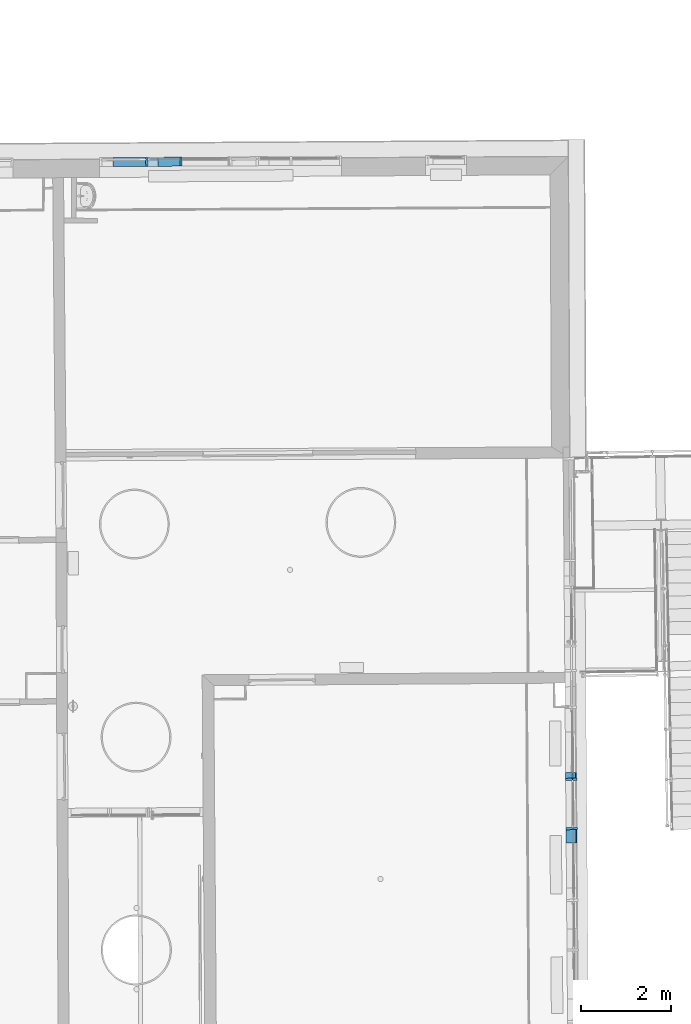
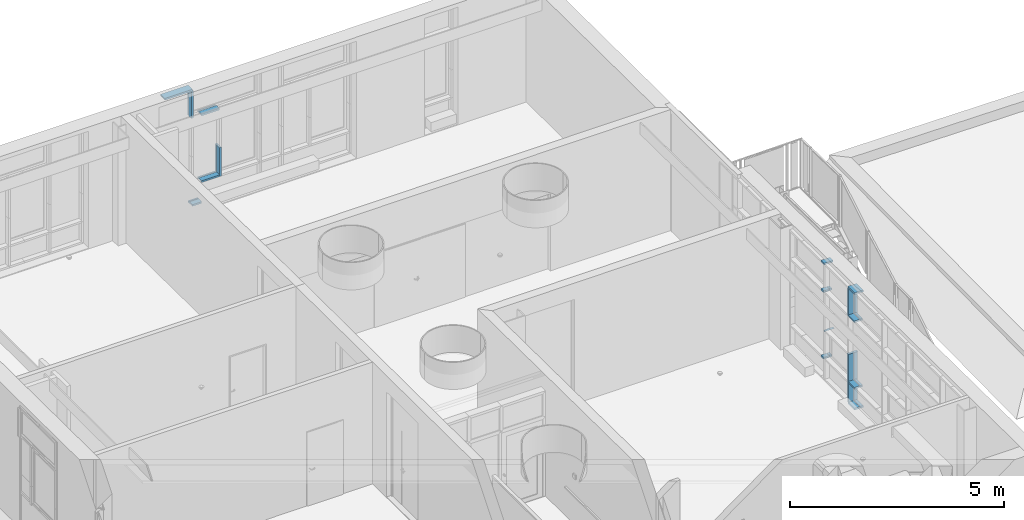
# One storey, part 129 of 158: 18 building element parts, 2 elements without a shape of their own.
"""IFC2X3 building model written with IfcOpenShell, lengths in metres."""

from ifc_helpers import new_model, entity, si_unit, converted_unit, derived_unit, money_unit, direction, frame, origin_with_axes, place, context, subcontext, project, spatial, faceted_brep, material, type_object, element, aggregate, save


model = new_model("IFC2X3")

# Units and contexts
model_context = context("Model", 3, precision=1e-05, world=origin_with_axes(), true_north=direction((0.0, 1.0)))
body_context = subcontext(model_context, "Body", "Model", "MODEL_VIEW")
ifc_project = project(units=[si_unit("LENGTHUNIT", "METRE"), si_unit("AREAUNIT", "SQUARE_METRE"), si_unit("VOLUMEUNIT", "CUBIC_METRE"), converted_unit("PLANEANGLEUNIT", "DEGREE", entity("IfcPlaneAngleMeasure", 0.0174532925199), si_unit("PLANEANGLEUNIT", "RADIAN"), dimensions=[0, 0, 0, 0, 0, 0, 0]), money_unit("EUR"), converted_unit("TIMEUNIT", "Year", entity("IfcTimeMeasure", 31556926.0), si_unit("TIMEUNIT", "SECOND"), dimensions=[0, 0, 1, 0, 0, 0, 0]), si_unit("MASSUNIT", "GRAM", prefix="KILO"), si_unit("THERMODYNAMICTEMPERATUREUNIT", "DEGREE_CELSIUS"), si_unit("LUMINOUSINTENSITYUNIT", "LUMEN"), si_unit("ENERGYUNIT", "JOULE", prefix="MEGA"), derived_unit("THERMALCONDUCTANCEUNIT", [(si_unit("POWERUNIT", "WATT"), 1), (si_unit("LENGTHUNIT", "METRE"), -1), (si_unit("THERMODYNAMICTEMPERATUREUNIT", "KELVIN"), -1)]), derived_unit("SPECIFICHEATCAPACITYUNIT", [(si_unit("ENERGYUNIT", "JOULE"), 1), (si_unit("MASSUNIT", "GRAM", prefix="KILO"), -1), (si_unit("THERMODYNAMICTEMPERATUREUNIT", "KELVIN"), -1)]), derived_unit("MASSDENSITYUNIT", [(si_unit("MASSUNIT", "GRAM", prefix="KILO"), 1), (si_unit("VOLUMEUNIT", "CUBIC_METRE"), -1)])], contexts=[model_context])

# Site, building, storey
site_placement = place(None, origin_with_axes())
site = spatial("IfcSite", under=ifc_project, at=site_placement, Name="Gelände", CompositionType="ELEMENT")
building_placement = place(site_placement, origin_with_axes())
building = spatial("IfcBuilding", under=site, at=building_placement, Name="Gebäude", CompositionType="ELEMENT")
storey_placement = place(building_placement, origin_with_axes())
storey = spatial("IfcBuildingStorey", under=building, at=storey_placement, Name="ERDGESCHOSS", CompositionType="ELEMENT", Elevation=0.0)

# Proxy, building element parts
building_element_proxy_type = type_object("IfcBuildingElementProxyType", Name="Fassadentyp", PredefinedType="NOTDEFINED")
proxy_1_placement = place(storey_placement, frame((-22.8016333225, 53.9701805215, 1.34043904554), z_axis=(0.0, 0.0, 1.0), x_axis=(1.0, 0.0, 0.0)))
proxy_1 = element("IfcBuildingElementProxy", 1, at=proxy_1_placement, inside=storey, type_object=building_element_proxy_type, Name="Fassade-002")
ifc_material = material(Name="53_Metall, Aluminium")
building_element_part_1_placement = place(proxy_1_placement, origin_with_axes())
building_element_part_1 = element("IfcBuildingElementPart", 2, at=building_element_part_1_placement, material=ifc_material, Name="53_Metall, Aluminium", context=body_context, shape_type="Brep", body=[
    faceted_brep([(-1.89498624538, -0.0210511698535, 2.51000001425), (-1.89498624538, -0.0210511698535, 2.49500001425), (-1.89416982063, -0.1610487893, 2.49500001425), (-1.89416982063, -0.1610487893, 2.54500001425), (-1.89498624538, -0.0210511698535, 2.54500001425), (-1.89498624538, -0.0210511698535, 2.53000001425), (-1.89510287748, -0.00105150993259, 2.53000001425), (-1.89510287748, -0.00105150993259, 2.54500001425), (-1.8953361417, 0.0389478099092, 2.54500001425), (-1.8953361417, 0.0389478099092, 2.49500001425), (-1.89510287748, -0.00105150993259, 2.49500001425), (-1.89510287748, -0.00105150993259, 2.51000001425), (-1.41495603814, -0.0182517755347, 2.51000001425), (-1.41495603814, -0.0182517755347, 2.49500001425), (-1.41413961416, -0.158249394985, 2.49500001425), (-1.41413961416, -0.158249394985, 2.54500001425), (-1.41495603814, -0.0182517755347, 2.54500001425), (-1.41495603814, -0.0182517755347, 2.53000001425), (-1.41507267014, 0.00174788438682, 2.53000001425), (-1.41507267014, 0.00174788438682, 2.54500001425), (-1.41530593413, 0.0417472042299, 2.54500001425), (-1.41530593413, 0.0417472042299, 2.49500001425), (-1.41507267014, 0.00174788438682, 2.49500001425), (-1.41507267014, 0.00174788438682, 2.51000001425)], [[[0, 1, 2, 3, 4, 5, 6, 7, 8, 9, 10, 11]], [[1, 0, 12, 13]], [[1, 13, 14, 2]], [[2, 14, 15, 3]], [[4, 3, 15, 16]], [[4, 16, 17, 5]], [[5, 17, 18, 6]], [[7, 6, 18, 19]], [[19, 20, 8, 7]], [[8, 20, 21, 9]], [[22, 10, 9, 21]], [[11, 10, 22, 23]], [[0, 11, 23, 12]], [[23, 22, 21, 20, 19, 18, 17, 16, 15, 14, 13, 12]]]),
])
building_element_part_2_placement = place(proxy_1_placement, origin_with_axes())
building_element_part_2 = element("IfcBuildingElementPart", 3, at=building_element_part_2_placement, material=ifc_material, Name="53_Metall, Aluminium", context=body_context, shape_type="Brep", body=[
    faceted_brep([(-1.89498625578, -0.0210511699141, 0.610000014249), (-1.89498625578, -0.0210511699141, 0.595000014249), (-1.89416983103, -0.16104878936, 0.595000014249), (-1.89416983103, -0.16104878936, 0.645000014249), (-1.89498625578, -0.0210511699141, 0.645000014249), (-1.89498625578, -0.0210511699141, 0.630000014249), (-1.89510288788, -0.00105150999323, 0.630000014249), (-1.89510288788, -0.00105150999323, 0.645000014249), (-1.8953361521, 0.0389478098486, 0.645000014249), (-1.8953361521, 0.0389478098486, 0.595000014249), (-1.89510288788, -0.00105150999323, 0.595000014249), (-1.89510288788, -0.00105150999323, 0.610000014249), (-1.41495604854, -0.0182517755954, 0.610000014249), (-1.41495604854, -0.0182517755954, 0.595000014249), (-1.41413962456, -0.158249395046, 0.595000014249), (-1.41413962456, -0.158249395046, 0.645000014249), (-1.41495604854, -0.0182517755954, 0.645000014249), (-1.41495604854, -0.0182517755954, 0.630000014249), (-1.41507268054, 0.00174788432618, 0.630000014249), (-1.41507268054, 0.00174788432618, 0.645000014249), (-1.41530594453, 0.0417472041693, 0.645000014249), (-1.41530594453, 0.0417472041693, 0.595000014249), (-1.41507268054, 0.00174788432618, 0.595000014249), (-1.41507268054, 0.00174788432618, 0.610000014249)], [[[0, 1, 2, 3, 4, 5, 6, 7, 8, 9, 10, 11]], [[1, 0, 12, 13]], [[1, 13, 14, 2]], [[2, 14, 15, 3]], [[4, 3, 15, 16]], [[4, 16, 17, 5]], [[5, 17, 18, 6]], [[7, 6, 18, 19]], [[19, 20, 8, 7]], [[8, 20, 21, 9]], [[22, 10, 9, 21]], [[11, 10, 22, 23]], [[0, 11, 23, 12]], [[23, 22, 21, 20, 19, 18, 17, 16, 15, 14, 13, 12]]]),
])
building_element_part_3_placement = place(proxy_1_placement, origin_with_axes())
building_element_part_3 = element("IfcBuildingElementPart", 4, at=building_element_part_3_placement, material=ifc_material, Name="53_Metall, Aluminium", context=body_context, shape_type="Brep", body=[
    faceted_brep([(-1.39995630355, -0.018164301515, 1.42000001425), (-1.41495604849, -0.018251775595, 1.42000001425), (-1.41413962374, -0.158249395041, 1.42000001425), (-1.36414047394, -0.157957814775, 1.42000001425), (-1.36495689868, -0.0179601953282, 1.42000001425), (-1.37995664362, -0.0180476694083, 1.42000001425), (-1.38007327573, 0.00195199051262, 1.42000001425), (-1.36507353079, 0.00203946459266, 1.42000001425), (-1.365306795, 0.0420387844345, 1.42000001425), (-1.41530594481, 0.0417472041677, 1.42000001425), (-1.41507268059, 0.00174788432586, 1.42000001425), (-1.40007293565, 0.0018353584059, 1.42000001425), (-1.39995630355, -0.018164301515, 0.595000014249), (-1.41495604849, -0.018251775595, 0.595000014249), (-1.41413962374, -0.158249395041, 0.595000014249), (-1.36414047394, -0.157957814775, 0.595000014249), (-1.36495689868, -0.0179601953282, 0.595000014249), (-1.37995664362, -0.0180476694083, 0.595000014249), (-1.38007327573, 0.00195199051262, 0.595000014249), (-1.36507353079, 0.00203946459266, 0.595000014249), (-1.365306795, 0.0420387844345, 0.595000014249), (-1.41530594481, 0.0417472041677, 0.595000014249), (-1.41507268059, 0.00174788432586, 0.595000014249), (-1.40007293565, 0.0018353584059, 0.595000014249)], [[[0, 1, 2, 3, 4, 5, 6, 7, 8, 9, 10, 11]], [[1, 0, 12, 13]], [[1, 13, 14, 2]], [[3, 2, 14, 15]], [[4, 3, 15, 16]], [[4, 16, 17, 5]], [[5, 17, 18, 6]], [[7, 6, 18, 19]], [[19, 20, 8, 7]], [[9, 8, 20, 21]], [[22, 10, 9, 21]], [[11, 10, 22, 23]], [[0, 11, 23, 12]], [[23, 22, 21, 20, 19, 18, 17, 16, 15, 14, 13, 12]]]),
])
building_element_part_4_placement = place(proxy_1_placement, origin_with_axes())
building_element_part_4 = element("IfcBuildingElementPart", 5, at=building_element_part_4_placement, material=ifc_material, Name="53_Metall, Aluminium", context=body_context, shape_type="Brep", body=[
    faceted_brep([(-2.89496924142, -0.0268827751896, 3.31499988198), (-2.89496924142, -0.0268827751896, 3.29999988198), (-2.89415281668, -0.166880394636, 3.29999988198), (-2.89415281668, -0.166880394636, 3.34999988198), (-2.89531913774, 0.0331162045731, 3.34999988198), (-2.89531913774, 0.0331162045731, 3.29999988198), (-2.89508587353, -0.00688311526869, 3.29999988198), (-2.89508587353, -0.00688311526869, 3.31499988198), (-2.14533506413, -0.0225111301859, 3.31499988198), (-2.14533506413, -0.0225111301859, 3.29999988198), (-2.14451863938, -0.162508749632, 3.29999988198), (-2.14451863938, -0.162508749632, 3.34999988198), (-2.14568496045, 0.0374878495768, 3.34999988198), (-2.14568496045, 0.0374878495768, 3.29999988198), (-2.14545169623, -0.00251147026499, 3.29999988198), (-2.14545169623, -0.00251147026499, 3.31499988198)], [[[0, 1, 2, 3, 4, 5, 6, 7]], [[0, 8, 9, 1]], [[9, 10, 2, 1]], [[10, 11, 3, 2]], [[11, 12, 4, 3]], [[12, 13, 5, 4]], [[6, 5, 13, 14]], [[14, 15, 7, 6]], [[7, 15, 8, 0]], [[8, 15, 14, 13, 12, 11, 10, 9]]]),
])
building_element_part_5_placement = place(proxy_1_placement, origin_with_axes())
building_element_part_5 = element("IfcBuildingElementPart", 6, at=building_element_part_5_placement, material=ifc_material, Name="53_Metall, Aluminium", context=body_context, shape_type="Brep", body=[
    faceted_brep([(-2.15533489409, -0.0225694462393, 3.29999992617), (-2.17033463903, -0.0226569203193, 3.29999992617), (-2.16951821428, -0.162654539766, 3.29999992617), (-2.11951906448, -0.162362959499, 3.29999992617), (-2.12033548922, -0.0223653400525, 3.29999992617), (-2.13533523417, -0.0224528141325, 3.29999992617), (-2.13545186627, -0.00245315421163, 3.29999992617), (-2.12045212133, -0.00236568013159, 3.29999992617), (-2.12068538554, 0.0376336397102, 3.29999992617), (-2.17068453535, 0.0373420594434, 3.29999992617), (-2.17045127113, -0.00265726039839, 3.29999992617), (-2.15545152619, -0.00256978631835, 3.29999992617), (-2.15533489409, -0.0225694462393, 2.5200000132), (-2.17033463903, -0.0226569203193, 2.5200000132), (-2.16951821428, -0.162654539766, 2.5200000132), (-2.11951906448, -0.162362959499, 2.5200000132), (-2.12033548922, -0.0223653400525, 2.5200000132), (-2.13533523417, -0.0224528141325, 2.5200000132), (-2.13545186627, -0.00245315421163, 2.5200000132), (-2.12045212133, -0.00236568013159, 2.5200000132), (-2.12068538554, 0.0376336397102, 2.5200000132), (-2.17068453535, 0.0373420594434, 2.5200000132), (-2.17045127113, -0.00265726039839, 2.5200000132), (-2.15545152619, -0.00256978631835, 2.5200000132)], [[[0, 1, 2, 3, 4, 5, 6, 7, 8, 9, 10, 11]], [[1, 0, 12, 13]], [[1, 13, 14, 2]], [[3, 2, 14, 15]], [[4, 3, 15, 16]], [[4, 16, 17, 5]], [[5, 17, 18, 6]], [[7, 6, 18, 19]], [[19, 20, 8, 7]], [[9, 8, 20, 21]], [[22, 10, 9, 21]], [[11, 10, 22, 23]], [[0, 11, 23, 12]], [[23, 22, 21, 20, 19, 18, 17, 16, 15, 14, 13, 12]]]),
])
building_element_part_6_placement = place(proxy_1_placement, origin_with_axes())
building_element_part_6 = element("IfcBuildingElementPart", 7, at=building_element_part_6_placement, material=ifc_material, Name="53_Metall, Aluminium", context=body_context, shape_type="Brep", body=[
    faceted_brep([(-2.14533506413, -0.0225111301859, 0.0349999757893), (-2.14545169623, -0.00251147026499, 0.0349999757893), (-2.14545169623, -0.00251147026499, 0.0499999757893), (-2.14568496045, 0.0374878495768, 0.0499999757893), (-2.14568496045, 0.0374878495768, -2.42107287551e-08), (-2.14451863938, -0.162508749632, -2.42107287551e-08), (-2.14451863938, -0.162508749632, 0.0499999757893), (-2.14533506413, -0.0225111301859, 0.0499999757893), (-1.89498624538, -0.0210511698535, 0.0349999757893), (-1.89510287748, -0.00105150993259, 0.0349999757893), (-1.89510287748, -0.00105150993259, 0.0499999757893), (-1.8953361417, 0.0389478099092, 0.0499999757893), (-1.8953361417, 0.0389478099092, -2.42107287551e-08), (-1.89416982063, -0.1610487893, -2.42107287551e-08), (-1.89416982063, -0.1610487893, 0.0499999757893), (-1.89498624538, -0.0210511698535, 0.0499999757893)], [[[0, 1, 2, 3, 4, 5, 6, 7]], [[1, 0, 8, 9]], [[10, 2, 1, 9]], [[2, 10, 11, 3]], [[12, 4, 3, 11]], [[13, 5, 4, 12]], [[14, 6, 5, 13]], [[15, 7, 6, 14]], [[0, 7, 15, 8]], [[8, 15, 14, 13, 12, 11, 10, 9]]]),
])
aggregate(proxy_1, [building_element_part_1, building_element_part_2, building_element_part_3, building_element_part_4, building_element_part_5, building_element_part_6])

proxy_2_placement = place(storey_placement, frame((-15.5457352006, 40.9565245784, 1.34043905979), z_axis=(0.0, 0.0, 1.0), x_axis=(1.0, 0.0, 0.0)))
proxy_2 = element("IfcBuildingElementProxy", 8, at=proxy_2_placement, inside=storey, type_object=building_element_proxy_type, Name="Fassade-002")
building_element_part_7_placement = place(proxy_2_placement, origin_with_axes())
building_element_part_7 = element("IfcBuildingElementPart", 9, at=building_element_part_7_placement, material=ifc_material, Name="53_Metall, Aluminium", context=body_context, shape_type="Brep", body=[
    faceted_brep([(0.00633996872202, -2.10000461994, 0.60999994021), (0.0263393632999, -2.09984900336, 0.60999994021), (0.0263393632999, -2.09984900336, 0.59499994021), (0.0863375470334, -2.09938215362, 0.59499994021), (0.0863375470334, -2.09938215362, 0.64499994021), (0.0263393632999, -2.09984900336, 0.64499994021), (0.0263393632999, -2.09984900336, 0.62999994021), (0.00633996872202, -2.10000461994, 0.62999994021), (0.00633996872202, -2.10000461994, 0.64499994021), (-0.133655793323, -2.101093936, 0.64499994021), (-0.133655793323, -2.101093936, 0.59499994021), (0.00633996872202, -2.10000461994, 0.59499994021), (0.00409091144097, -1.81096225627, 0.60999994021), (0.0240903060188, -1.81080663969, 0.60999994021), (0.0240903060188, -1.81080663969, 0.59499994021), (0.0840884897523, -1.81033978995, 0.59499994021), (0.0840884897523, -1.81033978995, 0.64499994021), (0.0240903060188, -1.81080663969, 0.64499994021), (0.0240903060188, -1.81080663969, 0.62999994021), (0.00409091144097, -1.81096225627, 0.62999994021), (0.00409091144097, -1.81096225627, 0.64499994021), (-0.135904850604, -1.81205157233, 0.64499994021), (-0.135904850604, -1.81205157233, 0.59499994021), (0.00409091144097, -1.81096225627, 0.59499994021)], [[[0, 1, 2, 3, 4, 5, 6, 7, 8, 9, 10, 11]], [[0, 12, 13, 1]], [[1, 13, 14, 2]], [[14, 15, 3, 2]], [[4, 3, 15, 16]], [[17, 5, 4, 16]], [[5, 17, 18, 6]], [[7, 6, 18, 19]], [[8, 7, 19, 20]], [[8, 20, 21, 9]], [[10, 9, 21, 22]], [[11, 10, 22, 23]], [[11, 23, 12, 0]], [[13, 12, 23, 22, 21, 20, 19, 18, 17, 16, 15, 14]]]),
])
building_element_part_8_placement = place(proxy_2_placement, origin_with_axes())
building_element_part_8 = element("IfcBuildingElementPart", 10, at=building_element_part_8_placement, material=ifc_material, Name="53_Metall, Aluminium", context=body_context, shape_type="Brep", body=[
    faceted_brep([(0.00633996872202, -2.10000461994, 0.035), (0.00633996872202, -2.10000461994, 0.05), (-0.133655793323, -2.101093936, 0.05), (-0.133655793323, -2.101093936, 0.0), (0.106336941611, -2.09922653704, 0.0), (0.106336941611, -2.09922653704, 0.05), (0.0263393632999, -2.09984900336, 0.05), (0.0263393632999, -2.09984900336, 0.035), (0.00389639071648, -1.78596301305, 0.035), (0.00389639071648, -1.78596301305, 0.05), (-0.136099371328, -1.7870523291, 0.05), (-0.136099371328, -1.7870523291, 0.0), (0.103893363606, -1.78518493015, 0.0), (0.103893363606, -1.78518493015, 0.05), (0.0238957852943, -1.78580739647, 0.05), (0.0238957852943, -1.78580739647, 0.035)], [[[0, 1, 2, 3, 4, 5, 6, 7]], [[0, 8, 9, 1]], [[9, 10, 2, 1]], [[10, 11, 3, 2]], [[11, 12, 4, 3]], [[12, 13, 5, 4]], [[6, 5, 13, 14]], [[14, 15, 7, 6]], [[7, 15, 8, 0]], [[8, 15, 14, 13, 12, 11, 10, 9]]]),
])
building_element_part_9_placement = place(proxy_2_placement, origin_with_axes())
building_element_part_9 = element("IfcBuildingElementPart", 11, at=building_element_part_9_placement, material=ifc_material, Name="53_Metall, Aluminium", context=body_context, shape_type="Brep", body=[
    faceted_brep([(-0.00476907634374, -0.672302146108, 2.50999994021), (0.0152303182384, -0.672146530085, 2.50999994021), (0.0152303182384, -0.672146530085, 2.49499994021), (0.0752285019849, -0.671679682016, 2.49499994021), (0.0752285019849, -0.671679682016, 2.54499994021), (0.0152303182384, -0.672146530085, 2.54499994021), (0.0152303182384, -0.672146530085, 2.52999994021), (-0.00476907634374, -0.672302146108, 2.52999994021), (-0.00476907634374, -0.672302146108, 2.54499994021), (-0.144764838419, -0.67339145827, 2.54499994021), (-0.144764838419, -0.67339145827, 2.49499994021), (-0.00476907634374, -0.672302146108, 2.49499994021), (-0.00572031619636, -0.55005154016, 2.50999994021), (0.0142790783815, -0.54989592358, 2.50999994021), (0.0142790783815, -0.54989592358, 2.49499994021), (0.074277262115, -0.549429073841, 2.49499994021), (0.074277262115, -0.549429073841, 2.54499994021), (0.0142790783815, -0.54989592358, 2.54499994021), (0.0142790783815, -0.54989592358, 2.52999994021), (-0.00572031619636, -0.55005154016, 2.52999994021), (-0.00572031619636, -0.55005154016, 2.54499994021), (-0.145716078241, -0.551140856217, 2.54499994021), (-0.145716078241, -0.551140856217, 2.49499994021), (-0.00572031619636, -0.55005154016, 2.49499994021)], [[[0, 1, 2, 3, 4, 5, 6, 7, 8, 9, 10, 11]], [[0, 12, 13, 1]], [[1, 13, 14, 2]], [[14, 15, 3, 2]], [[3, 15, 16, 4]], [[17, 5, 4, 16]], [[5, 17, 18, 6]], [[7, 6, 18, 19]], [[8, 7, 19, 20]], [[8, 20, 21, 9]], [[9, 21, 22, 10]], [[11, 10, 22, 23]], [[11, 23, 12, 0]], [[13, 12, 23, 22, 21, 20, 19, 18, 17, 16, 15, 14]]]),
])
building_element_part_10_placement = place(proxy_2_placement, origin_with_axes())
building_element_part_10 = element("IfcBuildingElementPart", 12, at=building_element_part_10_placement, material=ifc_material, Name="53_Metall, Aluminium", context=body_context, shape_type="Brep", body=[
    faceted_brep([(0.00633996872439, -2.10000462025, 2.50999994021), (0.0263393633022, -2.09984900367, 2.50999994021), (0.0263393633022, -2.09984900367, 2.49499994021), (0.0863375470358, -2.09938215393, 2.49499994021), (0.0863375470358, -2.09938215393, 2.54499994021), (0.0263393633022, -2.09984900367, 2.54499994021), (0.0263393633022, -2.09984900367, 2.52999994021), (0.00633996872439, -2.10000462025, 2.52999994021), (0.00633996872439, -2.10000462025, 2.54499994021), (-0.13365579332, -2.1010939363, 2.54499994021), (-0.13365579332, -2.1010939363, 2.49499994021), (0.00633996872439, -2.10000462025, 2.49499994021), (0.00409091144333, -1.81096225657, 2.50999994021), (0.0240903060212, -1.81080663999, 2.50999994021), (0.0240903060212, -1.81080663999, 2.49499994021), (0.0840884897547, -1.81033979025, 2.49499994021), (0.0840884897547, -1.81033979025, 2.54499994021), (0.0240903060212, -1.81080663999, 2.54499994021), (0.0240903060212, -1.81080663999, 2.52999994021), (0.00409091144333, -1.81096225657, 2.52999994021), (0.00409091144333, -1.81096225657, 2.54499994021), (-0.135904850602, -1.81205157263, 2.54499994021), (-0.135904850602, -1.81205157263, 2.49499994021), (0.00409091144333, -1.81096225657, 2.49499994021)], [[[0, 1, 2, 3, 4, 5, 6, 7, 8, 9, 10, 11]], [[0, 12, 13, 1]], [[1, 13, 14, 2]], [[14, 15, 3, 2]], [[4, 3, 15, 16]], [[17, 5, 4, 16]], [[5, 17, 18, 6]], [[7, 6, 18, 19]], [[8, 7, 19, 20]], [[8, 20, 21, 9]], [[10, 9, 21, 22]], [[11, 10, 22, 23]], [[11, 23, 12, 0]], [[13, 12, 23, 22, 21, 20, 19, 18, 17, 16, 15, 14]]]),
])
building_element_part_11_placement = place(proxy_2_placement, origin_with_axes())
building_element_part_11 = element("IfcBuildingElementPart", 13, at=building_element_part_11_placement, material=ifc_material, Name="53_Metall, Aluminium", context=body_context, shape_type="Brep", body=[
    faceted_brep([(-0.00449674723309, -0.707301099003, 1.42310934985), (0.0155026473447, -0.707145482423, 1.42310934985), (0.0156193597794, -0.722145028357, 1.42310934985), (0.110616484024, -0.721405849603, 1.42310934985), (0.110227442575, -0.671407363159, 1.42310934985), (0.0152303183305, -0.672146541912, 1.42310934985), (0.0153470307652, -0.687146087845, 1.42310934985), (-0.00465236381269, -0.687301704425, 1.42310934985), (-0.00476907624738, -0.672302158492, 1.42310934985), (-0.144764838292, -0.673391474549, 1.42310934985), (-0.144375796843, -0.723389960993, 1.42310934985), (-0.0043800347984, -0.722300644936, 1.42310934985), (-0.00449674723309, -0.707301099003, 1.41999993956), (0.0155026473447, -0.707145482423, 1.41999993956), (0.0156193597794, -0.722145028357, 1.41999993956), (0.110616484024, -0.721405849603, 1.41999993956), (0.110227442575, -0.671407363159, 1.41999993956), (0.0152303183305, -0.672146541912, 1.41999993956), (0.0153470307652, -0.687146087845, 1.41999993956), (-0.00465236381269, -0.687301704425, 1.41999993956), (-0.00476907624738, -0.672302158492, 1.41999993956), (-0.144764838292, -0.673391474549, 1.41999993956), (-0.144375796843, -0.723389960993, 1.41999993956), (-0.0043800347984, -0.722300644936, 1.41999993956)], [[[0, 1, 2, 3, 4, 5, 6, 7, 8, 9, 10, 11]], [[0, 12, 13, 1]], [[1, 13, 14, 2]], [[14, 15, 3, 2]], [[3, 15, 16, 4]], [[17, 5, 4, 16]], [[5, 17, 18, 6]], [[7, 6, 18, 19]], [[8, 7, 19, 20]], [[8, 20, 21, 9]], [[9, 21, 22, 10]], [[11, 10, 22, 23]], [[11, 23, 12, 0]], [[13, 12, 23, 22, 21, 20, 19, 18, 17, 16, 15, 14]]]),
])
building_element_part_12_placement = place(proxy_2_placement, origin_with_axes())
building_element_part_12 = element("IfcBuildingElementPart", 14, at=building_element_part_12_placement, material=ifc_material, Name="53_Metall, Aluminium", context=body_context, shape_type="Brep", body=[
    faceted_brep([(0.00397419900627, -1.79596271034, 1.41999994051), (0.0239735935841, -1.79580709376, 1.41999994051), (0.0240903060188, -1.81080663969, 1.41999994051), (0.119087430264, -1.81006746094, 1.41999994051), (0.118698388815, -1.76006897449, 1.41999994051), (0.0237012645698, -1.76080815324, 1.41999994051), (0.0238179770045, -1.77580769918, 1.41999994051), (0.00381858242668, -1.77596331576, 1.41999994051), (0.00370186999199, -1.76096376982, 1.41999994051), (-0.136293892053, -1.76205308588, 1.41999994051), (-0.135904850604, -1.81205157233, 1.41999994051), (0.00409091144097, -1.81096225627, 1.41999994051), (0.00397419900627, -1.79596271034, 0.619999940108), (0.0239735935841, -1.79580709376, 0.619999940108), (0.0240903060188, -1.81080663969, 0.619999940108), (0.119087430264, -1.81006746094, 0.619999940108), (0.118698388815, -1.76006897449, 0.619999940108), (0.0237012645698, -1.76080815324, 0.619999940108), (0.0238179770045, -1.77580769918, 0.619999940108), (0.00381858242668, -1.77596331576, 0.619999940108), (0.00370186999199, -1.76096376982, 0.619999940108), (-0.136293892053, -1.76205308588, 0.619999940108), (-0.135904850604, -1.81205157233, 0.619999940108), (0.00409091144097, -1.81096225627, 0.619999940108)], [[[0, 1, 2, 3, 4, 5, 6, 7, 8, 9, 10, 11]], [[0, 12, 13, 1]], [[1, 13, 14, 2]], [[14, 15, 3, 2]], [[3, 15, 16, 4]], [[17, 5, 4, 16]], [[5, 17, 18, 6]], [[7, 6, 18, 19]], [[8, 7, 19, 20]], [[8, 20, 21, 9]], [[9, 21, 22, 10]], [[11, 10, 22, 23]], [[11, 23, 12, 0]], [[13, 12, 23, 22, 21, 20, 19, 18, 17, 16, 15, 14]]]),
])
building_element_part_13_placement = place(proxy_2_placement, origin_with_axes())
building_element_part_13 = element("IfcBuildingElementPart", 15, at=building_element_part_13_placement, material=ifc_material, Name="53_Metall, Aluminium", context=body_context, shape_type="Brep", body=[
    faceted_brep([(-0.00476907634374, -0.672302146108, 0.60999994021), (0.0152303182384, -0.672146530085, 0.60999994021), (0.0152303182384, -0.672146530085, 0.59499994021), (0.0752285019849, -0.671679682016, 0.59499994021), (0.0752285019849, -0.671679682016, 0.64499994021), (0.0152303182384, -0.672146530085, 0.64499994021), (0.0152303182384, -0.672146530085, 0.62999994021), (-0.00476907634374, -0.672302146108, 0.62999994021), (-0.00476907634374, -0.672302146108, 0.64499994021), (-0.144764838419, -0.67339145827, 0.64499994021), (-0.144764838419, -0.67339145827, 0.59499994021), (-0.00476907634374, -0.672302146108, 0.59499994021), (-0.00572031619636, -0.55005154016, 0.60999994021), (0.0142790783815, -0.54989592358, 0.60999994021), (0.0142790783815, -0.54989592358, 0.59499994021), (0.074277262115, -0.549429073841, 0.59499994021), (0.074277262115, -0.549429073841, 0.64499994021), (0.0142790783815, -0.54989592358, 0.64499994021), (0.0142790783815, -0.54989592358, 0.62999994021), (-0.00572031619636, -0.55005154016, 0.62999994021), (-0.00572031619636, -0.55005154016, 0.64499994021), (-0.145716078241, -0.551140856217, 0.64499994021), (-0.145716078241, -0.551140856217, 0.59499994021), (-0.00572031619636, -0.55005154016, 0.59499994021)], [[[0, 1, 2, 3, 4, 5, 6, 7, 8, 9, 10, 11]], [[0, 12, 13, 1]], [[1, 13, 14, 2]], [[14, 15, 3, 2]], [[3, 15, 16, 4]], [[17, 5, 4, 16]], [[5, 17, 18, 6]], [[7, 6, 18, 19]], [[8, 7, 19, 20]], [[8, 20, 21, 9]], [[9, 21, 22, 10]], [[11, 10, 22, 23]], [[11, 23, 12, 0]], [[13, 12, 23, 22, 21, 20, 19, 18, 17, 16, 15, 14]]]),
])
building_element_part_14_placement = place(proxy_2_placement, origin_with_axes())
building_element_part_14 = element("IfcBuildingElementPart", 16, at=building_element_part_14_placement, material=ifc_material, Name="53_Metall, Aluminium", context=body_context, shape_type="Brep", body=[
    faceted_brep([(-0.00457455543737, -0.697301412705, 3.31499987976), (0.0154248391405, -0.697145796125, 3.31499987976), (0.0154248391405, -0.697145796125, 3.29999987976), (0.0954224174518, -0.696523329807, 3.29999987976), (0.0954224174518, -0.696523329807, 3.34999987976), (-0.144570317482, -0.698390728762, 3.34999987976), (-0.144570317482, -0.698390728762, 3.29999987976), (-0.00457455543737, -0.697301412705, 3.29999987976), (-0.00572031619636, -0.55005154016, 3.31499987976), (0.0142790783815, -0.54989592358, 3.31499987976), (0.0142790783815, -0.54989592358, 3.29999987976), (0.0942766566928, -0.549273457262, 3.29999987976), (0.0942766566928, -0.549273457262, 3.34999987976), (-0.145716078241, -0.551140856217, 3.34999987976), (-0.145716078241, -0.551140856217, 3.29999987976), (-0.00572031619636, -0.55005154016, 3.29999987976)], [[[0, 1, 2, 3, 4, 5, 6, 7]], [[1, 0, 8, 9]], [[10, 2, 1, 9]], [[2, 10, 11, 3]], [[12, 4, 3, 11]], [[13, 5, 4, 12]], [[14, 6, 5, 13]], [[15, 7, 6, 14]], [[0, 7, 15, 8]], [[8, 15, 14, 13, 12, 11, 10, 9]]]),
])
building_element_part_15_placement = place(proxy_2_placement, origin_with_axes())
building_element_part_15 = element("IfcBuildingElementPart", 17, at=building_element_part_15_placement, material=ifc_material, Name="53_Metall, Aluminium", context=body_context, shape_type="Brep", body=[
    faceted_brep([(0.00397419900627, -1.79596271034, 0.619999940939), (0.0239735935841, -1.79580709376, 0.619999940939), (0.0240903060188, -1.81080663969, 0.619999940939), (0.119087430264, -1.81006746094, 0.619999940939), (0.118698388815, -1.76006897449, 0.619999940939), (0.0237012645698, -1.76080815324, 0.619999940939), (0.0238179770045, -1.77580769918, 0.619999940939), (0.00381858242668, -1.77596331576, 0.619999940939), (0.00370186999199, -1.76096376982, 0.619999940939), (-0.136293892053, -1.76205308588, 0.619999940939), (-0.135904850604, -1.81205157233, 0.619999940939), (0.00409091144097, -1.81096225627, 0.619999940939), (0.00397419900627, -1.79596271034, 0.0500000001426), (0.0239735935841, -1.79580709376, 0.0499999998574), (0.0240903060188, -1.81080663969, 0.0499999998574), (0.119087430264, -1.81006746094, 0.0499999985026), (0.118698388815, -1.76006897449, 0.0499999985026), (0.0237012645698, -1.76080815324, 0.0499999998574), (0.0238179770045, -1.77580769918, 0.0499999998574), (0.00381858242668, -1.77596331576, 0.0500000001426), (0.00370186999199, -1.76096376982, 0.0500000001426), (-0.136293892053, -1.76205308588, 0.0500000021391), (-0.135904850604, -1.81205157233, 0.0500000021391), (0.00409091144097, -1.81096225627, 0.0500000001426)], [[[0, 1, 2, 3, 4, 5, 6, 7, 8, 9, 10, 11]], [[0, 12, 13, 1]], [[1, 13, 14, 2]], [[14, 15, 3, 2]], [[4, 3, 15, 16]], [[17, 5, 4, 16]], [[5, 17, 18, 6]], [[7, 6, 18, 19]], [[8, 7, 19, 20]], [[8, 20, 21, 9]], [[10, 9, 21, 22]], [[11, 10, 22, 23]], [[11, 23, 12, 0]], [[13, 12, 23, 22, 21, 20, 19, 18, 17, 16, 15, 14]]]),
])
building_element_part_16_placement = place(proxy_2_placement, origin_with_axes())
building_element_part_16 = element("IfcBuildingElementPart", 18, at=building_element_part_16_placement, material=ifc_material, Name="53_Metall, Aluminium", context=body_context, shape_type="Brep", body=[
    faceted_brep([(0.00397419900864, -1.79596271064, 1.42310934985), (0.0239735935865, -1.79580709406, 1.42310934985), (0.0240903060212, -1.81080663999, 1.42310934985), (0.119087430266, -1.81006746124, 1.42310934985), (0.118698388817, -1.7600689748, 1.42310934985), (0.0237012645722, -1.76080815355, 1.42310934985), (0.0238179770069, -1.77580769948, 1.42310934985), (0.00381858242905, -1.77596331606, 1.42310934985), (0.00370186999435, -1.76096377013, 1.42310934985), (-0.136293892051, -1.76205308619, 1.42310934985), (-0.135904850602, -1.81205157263, 1.42310934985), (0.00409091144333, -1.81096225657, 1.42310934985), (0.00397419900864, -1.79596271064, 1.41999993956), (0.0239735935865, -1.79580709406, 1.41999993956), (0.0240903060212, -1.81080663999, 1.41999993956), (0.119087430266, -1.81006746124, 1.41999993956), (0.118698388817, -1.7600689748, 1.41999993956), (0.0237012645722, -1.76080815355, 1.41999993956), (0.0238179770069, -1.77580769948, 1.41999993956), (0.00381858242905, -1.77596331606, 1.41999993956), (0.00370186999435, -1.76096377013, 1.41999993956), (-0.136293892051, -1.76205308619, 1.41999993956), (-0.135904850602, -1.81205157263, 1.41999993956), (0.00409091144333, -1.81096225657, 1.41999993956)], [[[0, 1, 2, 3, 4, 5, 6, 7, 8, 9, 10, 11]], [[0, 12, 13, 1]], [[1, 13, 14, 2]], [[14, 15, 3, 2]], [[3, 15, 16, 4]], [[17, 5, 4, 16]], [[5, 17, 18, 6]], [[7, 6, 18, 19]], [[8, 7, 19, 20]], [[8, 20, 21, 9]], [[9, 21, 22, 10]], [[11, 10, 22, 23]], [[11, 23, 12, 0]], [[13, 12, 23, 22, 21, 20, 19, 18, 17, 16, 15, 14]]]),
])
building_element_part_17_placement = place(proxy_2_placement, origin_with_axes())
building_element_part_17 = element("IfcBuildingElementPart", 19, at=building_element_part_17_placement, material=ifc_material, Name="53_Metall, Aluminium", context=body_context, shape_type="Brep", body=[
    faceted_brep([(0.00397419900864, -1.79596271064, 3.29999987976), (0.0239735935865, -1.79580709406, 3.29999987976), (0.0240903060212, -1.81080663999, 3.29999987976), (0.119087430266, -1.81006746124, 3.29999987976), (0.118698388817, -1.7600689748, 3.29999987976), (0.0237012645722, -1.76080815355, 3.29999987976), (0.0238179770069, -1.77580769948, 3.29999987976), (0.00381858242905, -1.77596331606, 3.29999987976), (0.00370186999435, -1.76096377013, 3.29999987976), (-0.136293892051, -1.76205308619, 3.29999987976), (-0.135904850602, -1.81205157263, 3.29999987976), (0.00409091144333, -1.81096225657, 3.29999987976), (0.00397419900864, -1.79596271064, 2.5199999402), (0.0239735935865, -1.79580709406, 2.5199999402), (0.0240903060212, -1.81080663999, 2.5199999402), (0.119087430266, -1.81006746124, 2.5199999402), (0.118698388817, -1.7600689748, 2.5199999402), (0.0237012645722, -1.76080815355, 2.5199999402), (0.0238179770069, -1.77580769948, 2.5199999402), (0.00381858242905, -1.77596331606, 2.5199999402), (0.00370186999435, -1.76096377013, 2.5199999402), (-0.136293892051, -1.76205308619, 2.5199999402), (-0.135904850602, -1.81205157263, 2.5199999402), (0.00409091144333, -1.81096225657, 2.5199999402)], [[[0, 1, 2, 3, 4, 5, 6, 7, 8, 9, 10, 11]], [[0, 12, 13, 1]], [[1, 13, 14, 2]], [[14, 15, 3, 2]], [[3, 15, 16, 4]], [[17, 5, 4, 16]], [[5, 17, 18, 6]], [[7, 6, 18, 19]], [[8, 7, 19, 20]], [[8, 20, 21, 9]], [[9, 21, 22, 10]], [[11, 10, 22, 23]], [[11, 23, 12, 0]], [[13, 12, 23, 22, 21, 20, 19, 18, 17, 16, 15, 14]]]),
])
building_element_part_18_placement = place(proxy_2_placement, origin_with_axes())
building_element_part_18 = element("IfcBuildingElementPart", 20, at=building_element_part_18_placement, material=ifc_material, Name="53_Metall, Aluminium", context=body_context, shape_type="Brep", body=[
    faceted_brep([(0.00633996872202, -2.10000461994, 3.31499987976), (0.0263393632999, -2.09984900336, 3.31499987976), (0.0263393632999, -2.09984900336, 3.29999987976), (0.106336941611, -2.09922653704, 3.29999987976), (0.106336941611, -2.09922653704, 3.34999987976), (-0.133655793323, -2.101093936, 3.34999987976), (-0.133655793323, -2.101093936, 3.29999987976), (0.00633996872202, -2.10000461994, 3.29999987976), (0.00389639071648, -1.78596301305, 3.31499987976), (0.0238957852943, -1.78580739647, 3.31499987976), (0.0238957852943, -1.78580739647, 3.29999987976), (0.103893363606, -1.78518493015, 3.29999987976), (0.103893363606, -1.78518493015, 3.34999987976), (-0.136099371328, -1.7870523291, 3.34999987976), (-0.136099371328, -1.7870523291, 3.29999987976), (0.00389639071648, -1.78596301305, 3.29999987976)], [[[0, 1, 2, 3, 4, 5, 6, 7]], [[1, 0, 8, 9]], [[10, 2, 1, 9]], [[2, 10, 11, 3]], [[12, 4, 3, 11]], [[13, 5, 4, 12]], [[14, 6, 5, 13]], [[15, 7, 6, 14]], [[0, 7, 15, 8]], [[8, 15, 14, 13, 12, 11, 10, 9]]]),
])
aggregate(proxy_2, [building_element_part_7, building_element_part_8, building_element_part_9, building_element_part_10, building_element_part_11, building_element_part_12, building_element_part_13, building_element_part_14, building_element_part_15, building_element_part_16, building_element_part_17, building_element_part_18])

save(model, "model.ifc")
